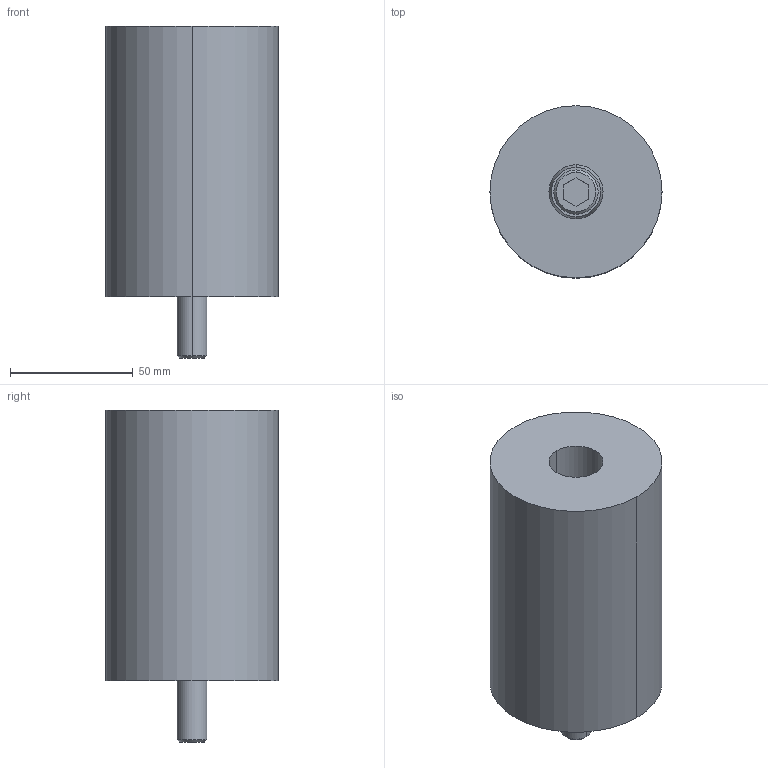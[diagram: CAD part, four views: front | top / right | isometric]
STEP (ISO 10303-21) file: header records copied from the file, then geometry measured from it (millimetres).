
FILE_DESCRIPTION(/* description */ (''),/* implementation_level */ '2;1');
FILE_NAME(/* name */ '3d_esub7022110_07042_r00.stp',/* time_stamp */ '2011-01-10T14:15:39+09:00',/* author */ ('MISUMI'),/* organization */ (''),/* preprocessor_version */ 'ST-DEVELOPER v11',/* originating_system */ 'UGS - NX 5.0',/* authorisation */ '');
FILE_SCHEMA (('CONFIG_CONTROL_DESIGN'));
Length unit declared in the file: millimetre
Products named in the file (1): 3d_esub7022110_07042_r00
Bounding box: 70 x 70 x 135 mm (x, y, z)
Volume: 399975.6 mm3; surface area: 46165 mm2
Topology: 3 solids, 3 shells, 36 faces, 74 edges, 46 vertices
Faces by surface type: cylinder 14, plane 14, cone 8
Entity records: 1042 total; most frequent: DIRECTION 182, CARTESIAN_POINT 157, ORIENTED_EDGE 148, EDGE_CURVE 74, AXIS2_PLACEMENT_3D 71, VERTEX_POINT 46, EDGE_LOOP 42, LINE 40
